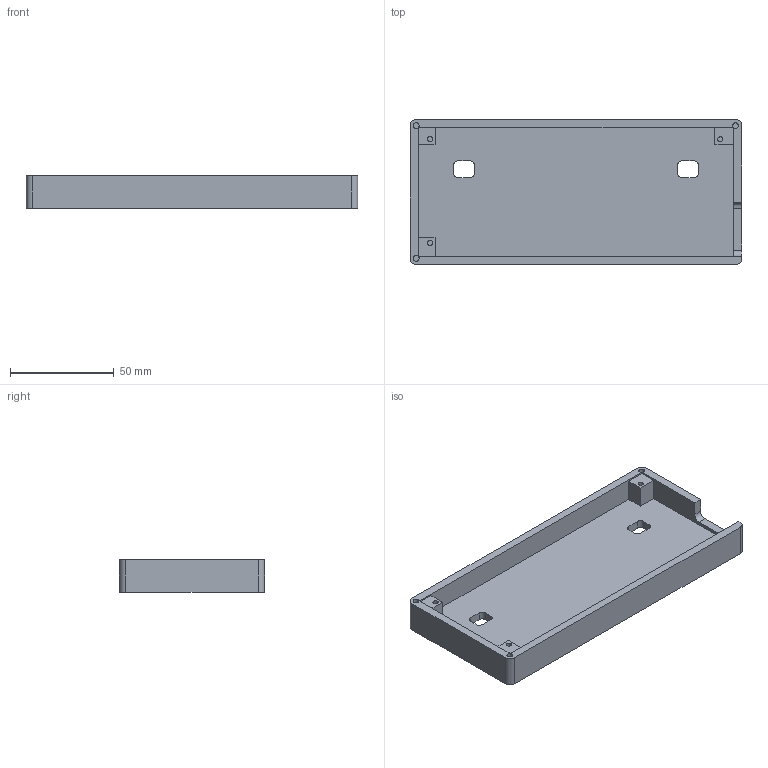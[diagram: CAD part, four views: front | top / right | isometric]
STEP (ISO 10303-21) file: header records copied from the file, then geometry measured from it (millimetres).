
FILE_DESCRIPTION(('HOOPS Exchange Step'),'2;1');
FILE_NAME('/private/var/mobile/Containers/Data/Application/266DDE31-0F5F-4924-9379-E846860AAEC6/tmp/export/temp_export','2025-06-30T23:40:38+20:00',('mobile'),('Shapr3D Limited'),'HOOPS Exchange 2024.8','Shapr3D','Authorized');
FILE_SCHEMA( ('AP242_MANAGED_MODEL_BASED_3D_ENGINEERING_MIM_LF {1 0 10303 442 1 1 4}') );
Length unit declared in the file: millimetre
Products named in the file (1): bottom part
Bounding box: 160 x 70 x 15.5 mm (x, y, z)
Volume: 65354.3 mm3; surface area: 34384.7 mm2
Topology: 1 solids, 1 shells, 56 faces, 150 edges, 101 vertices
Faces by surface type: plane 36, cylinder 20
Full cylindrical faces by diameter (mm): 2.5 x3, 2.8 x3
Entity records: 1807 total; most frequent: DIRECTION 311, CARTESIAN_POINT 309, ORIENTED_EDGE 300, EDGE_CURVE 150, VECTOR 105, LINE 105, AXIS2_PLACEMENT_3D 103, VERTEX_POINT 101
